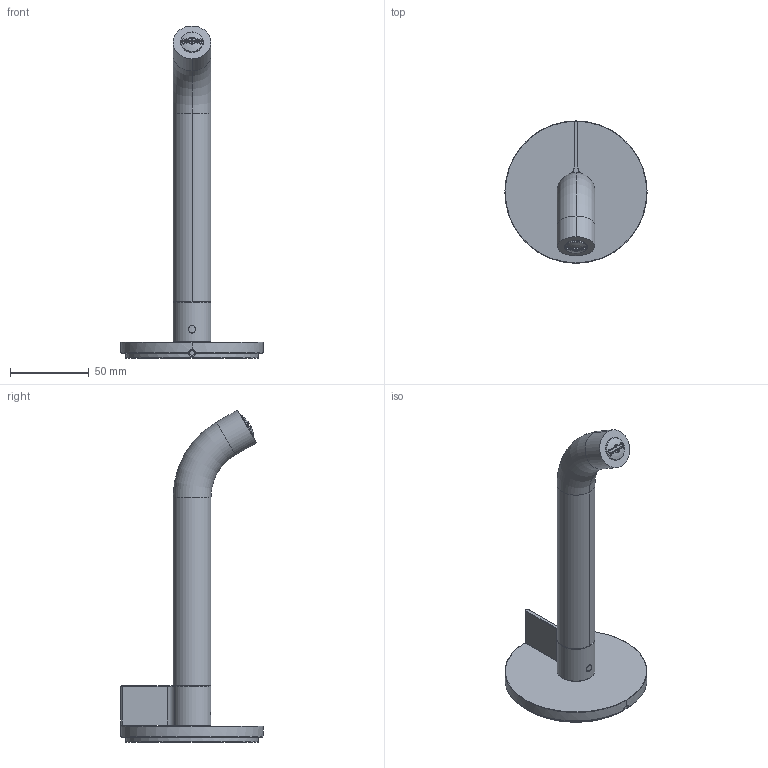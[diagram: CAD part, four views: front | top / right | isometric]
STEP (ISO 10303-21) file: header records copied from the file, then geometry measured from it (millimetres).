
FILE_DESCRIPTION((''),'2;1');
FILE_NAME('3D_SW0001','2026-01-26T16:53:11',('giacomo.molli'),(''),'CREO PARAMETRIC BY PTC INC, 2025010','CREO PARAMETRIC BY PTC INC, 2025010','');
FILE_SCHEMA(('AUTOMOTIVE_DESIGN { 1 0 10303 214 1 1 1 1 }'));
Length unit declared in the file: millimetre
Products named in the file (1): 3D_SW0001
Bounding box: 90 x 90 x 210.19 mm (x, y, z)
Volume: 123561.5 mm3; surface area: 45171.3 mm2
Topology: 1 solids, 3 shells, 166 faces, 432 edges, 277 vertices
Faces by surface type: plane 93, cylinder 39, torus 20, cone 10, sphere 4
Entity records: 6139 total; most frequent: CARTESIAN_POINT 1803, DIRECTION 952, ORIENTED_EDGE 860, EDGE_CURVE 430, AXIS2_PLACEMENT_3D 367, VERTEX_POINT 277, VECTOR 215, LINE 215
